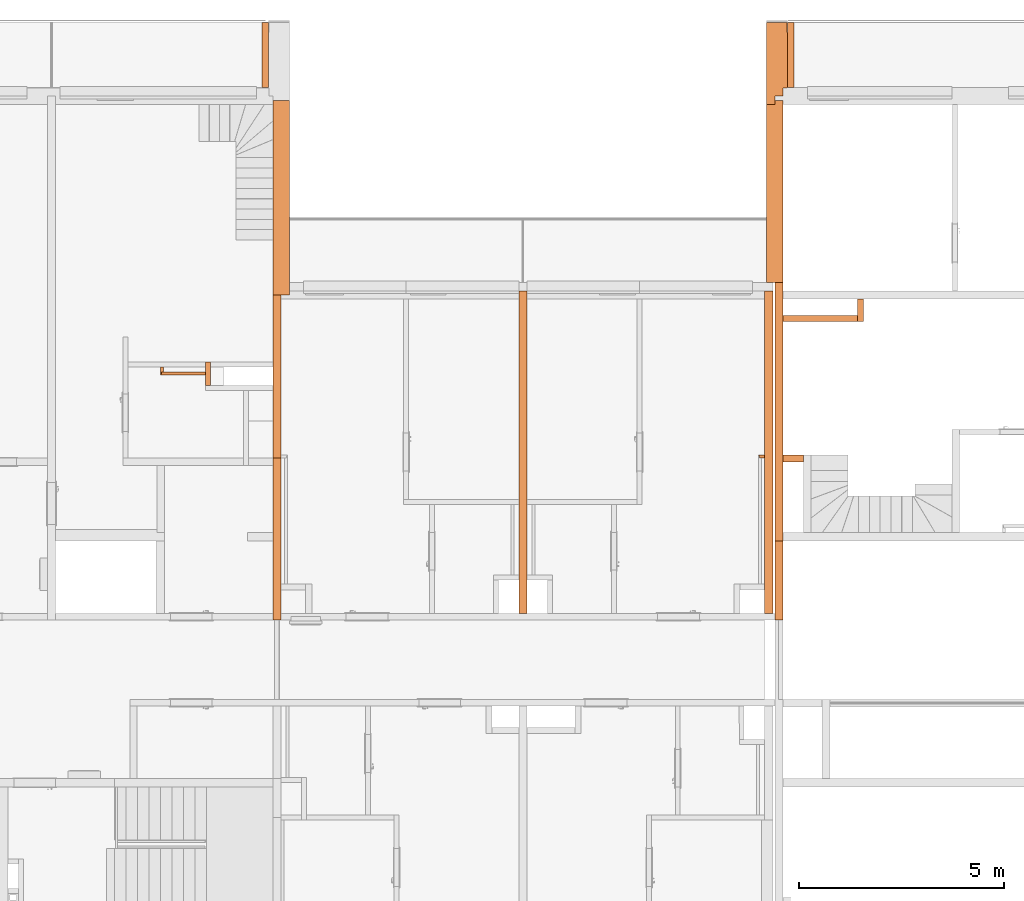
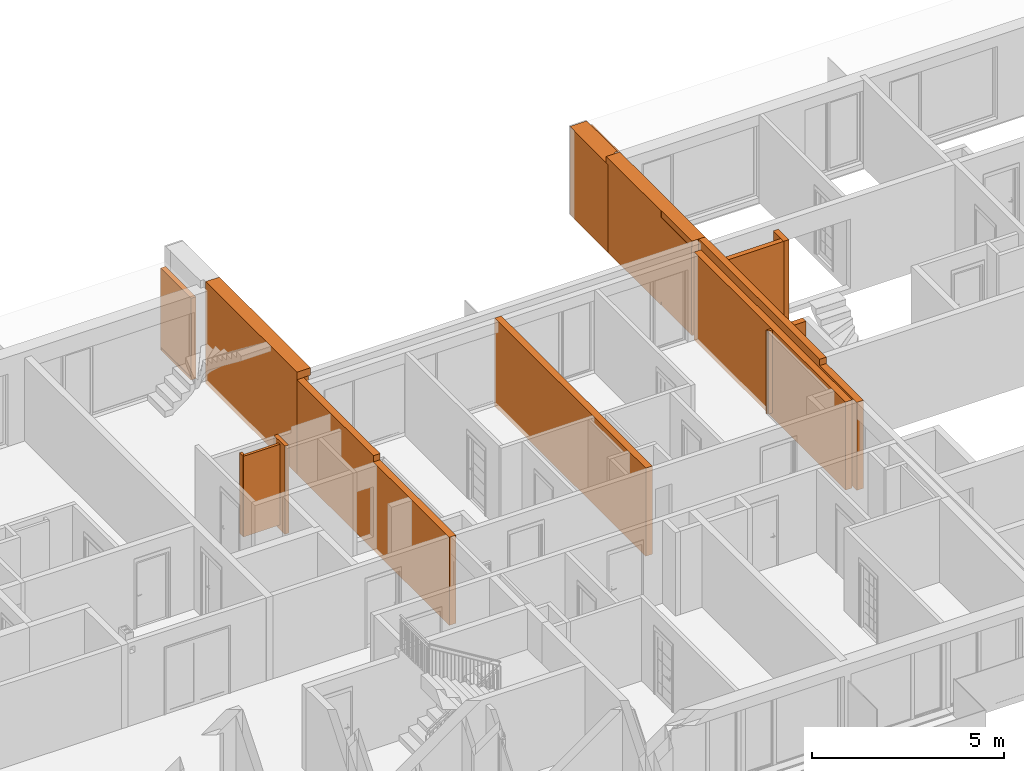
# One storey, part 57 of 61: 16 proxies, 1 opening.
"""IFC2X3 building model written with IfcOpenShell, lengths in millimetres."""

import ifcopenshell
import ifcopenshell.guid

model = None  # the IFC model being written
_history = None  # IfcOwnerHistory: only IFC2X3 demands one
_inside = {}  # id of a spatial element -> (the spatial element, [elements in it])
_under = {}  # id of a project, library or spatial element -> (it, [spatial elements below it])
_declared = {}  # id of a project -> (the project, [libraries it declares])
_typed = {}  # id of a type object -> (the type object, [elements of that type])
_made_of = {}  # id of a material, layer set ... -> (it, [elements and type objects made of it])


def new_model(schema):
    """Start an empty IFC model of exactly this schema.

    Asked for "IFC4X3", IfcOpenShell would pick the latest addendum, in which some entities
    have other attributes; the version numbers below select the first issue.
    IFC2X3 requires an IfcOwnerHistory on every rooted entity: one is made here for all.
    """
    global model, _history
    if schema == "IFC4X3":
        model = ifcopenshell.file(schema_version=(4, 3, 0, 0))
    else:
        model = ifcopenshell.file(schema=schema)
    _inside.clear()
    _under.clear()
    _declared.clear()
    _typed.clear()
    _made_of.clear()
    _history = None
    if model.schema == "IFC2X3":
        org = make("IfcOrganization", Name="unknown")
        user = make(
            "IfcPersonAndOrganization",
            ThePerson=make("IfcPerson", FamilyName="unknown"),
            TheOrganization=org,
        )
        app = make(
            "IfcApplication",
            ApplicationDeveloper=org,
            Version="unknown",
            ApplicationFullName="unknown",
            ApplicationIdentifier="unknown",
        )
        _history = make(
            "IfcOwnerHistory",
            OwningUser=user,
            OwningApplication=app,
            ChangeAction="ADDED",
            CreationDate=0,
        )
    return model


def make(cls, **values):
    """One entity of the class cls with the attributes given. An attribute that is None is left unset."""
    return model.create_entity(
        cls, **{name: value for name, value in values.items() if value is not None}
    )


def entity(cls, *values):
    """Any entity or typed value of the class cls, its attributes in the order of the schema. None: left unset."""
    e = model.create_entity(cls)
    for i, value in enumerate(values):
        if value is not None:
            e[i] = value
    return e


def rooted(cls, **values):
    """An entity with a GlobalId (a new one), such as an element, a storey or a relation."""
    return make(cls, GlobalId=ifcopenshell.guid.new(), OwnerHistory=_history, **values)


def si_unit(unit_type, name, prefix=None):
    """IfcSIUnit, for example si_unit("LENGTHUNIT", "METRE", prefix="MILLI")."""
    return make("IfcSIUnit", UnitType=unit_type, Prefix=prefix, Name=name)


def converted_unit(unit_type, name, factor, base, dimensions=None, offset=None):
    """IfcConversionBasedUnit, such as the inch: factor (a typed value) times the base unit."""
    return make(
        "IfcConversionBasedUnit"
        if offset is None
        else "IfcConversionBasedUnitWithOffset",
        ConversionOffset=offset,
        Dimensions=None
        if dimensions is None
        else entity("IfcDimensionalExponents", *dimensions),
        UnitType=unit_type,
        Name=name,
        ConversionFactor=make(
            "IfcMeasureWithUnit", ValueComponent=factor, UnitComponent=base
        ),
    )


def derived_unit(unit_type, elements):
    """IfcDerivedUnit: a product of units, each with its exponent."""
    return make(
        "IfcDerivedUnit",
        Elements=[
            make("IfcDerivedUnitElement", Unit=unit, Exponent=power)
            for unit, power in elements
        ],
        UnitType=unit_type,
    )


def money_unit(currency):
    """IfcMonetaryUnit."""
    return make("IfcMonetaryUnit", Currency=currency)


def assignment(units):
    """IfcUnitAssignment: the units of a project."""
    return None if units is None else make("IfcUnitAssignment", Units=units)


def point(xyz):
    """IfcCartesianPoint."""
    return None if xyz is None else make("IfcCartesianPoint", Coordinates=xyz)


def direction(xyz):
    """IfcDirection."""
    return None if xyz is None else make("IfcDirection", DirectionRatios=xyz)


def frame(location, z_axis=None, x_axis=None):
    """IfcAxis2Placement3D, a coordinate frame: its origin and axes. An axis left out is left unset."""
    return make(
        "IfcAxis2Placement3D",
        Location=point(location),
        Axis=direction(z_axis),
        RefDirection=direction(x_axis),
    )


def frame_2d(location, x_axis=None):
    """IfcAxis2Placement2D, a coordinate frame in the plane: its origin and x axis."""
    return make(
        "IfcAxis2Placement2D", Location=point(location), RefDirection=direction(x_axis)
    )


def origin_with_axes():
    """The frame at (0, 0, 0) with the z axis (0, 0, 1) and the x axis (1, 0, 0) written out."""
    return frame((0.0, 0.0, 0.0), z_axis=(0.0, 0.0, 1.0), x_axis=(1.0, 0.0, 0.0))


def origin_2d_with_axis():
    """The frame at (0, 0) in the plane with the x axis (1, 0) written out."""
    return frame_2d((0.0, 0.0), x_axis=(1.0, 0.0))


def place(relative_to, where):
    """IfcLocalPlacement: puts the frame where relative to a parent placement (None: the world)."""
    return make(
        "IfcLocalPlacement", PlacementRelTo=relative_to, RelativePlacement=where
    )


def context(
    kind, dimensions, precision=None, world=None, true_north=None, identifier=None
):
    """IfcGeometricRepresentationContext, for example the 3D "Model" context."""
    return make(
        "IfcGeometricRepresentationContext",
        ContextIdentifier=identifier,
        ContextType=kind,
        CoordinateSpaceDimension=dimensions,
        Precision=precision,
        WorldCoordinateSystem=world,
        TrueNorth=true_north,
    )


def subcontext(parent, identifier, kind, view, scale=None):
    """IfcGeometricRepresentationSubContext, for example "Body" below "Model"."""
    return make(
        "IfcGeometricRepresentationSubContext",
        ContextIdentifier=identifier,
        ContextType=kind,
        ParentContext=parent,
        TargetScale=scale,
        TargetView=view,
    )


def project(units=None, contexts=None):
    """IfcProject with its units and contexts."""
    return rooted(
        "IfcProject",
        Name="project",
        RepresentationContexts=contexts,
        UnitsInContext=assignment(units),
    )


def spatial(cls, under=None, at=None, **own):
    """A site, building, storey or space (cls), placed at a placement, below another one or the project."""
    s = rooted(cls, ObjectPlacement=at, **own)
    if under is not None:
        _under.setdefault(under.id(), (under, []))[1].append(s)
    return s


def profile(cls, at=None, kind="AREA", **sizes):
    """A parametric profile (cls). Its sizes go by their IFC names, for example OverallWidth=200.0."""
    return make(cls, ProfileType=kind, Position=at, **sizes)


def rectangle(**sizes):
    """IfcRectangleProfileDef."""
    return profile("IfcRectangleProfileDef", **sizes)


def extrude(swept, where, along, depth):
    """IfcExtrudedAreaSolid: the profile swept, set in the frame where, extruded along a direction by depth."""
    return make(
        "IfcExtrudedAreaSolid",
        SweptArea=swept,
        Position=where,
        ExtrudedDirection=direction(along),
        Depth=depth,
    )


def faces_of(points, faces, orient=None, outer=None):
    """IfcFace entities. A face is a list of loops; a loop is a list of indices into points, from 0.

    orient and outer hold one flag for each loop. By default every Orientation is true, the
    first loop of a face is its IfcFaceOuterBound and the others are IfcFaceBound.
    """
    made = []
    for i, loops in enumerate(faces):
        bounds = []
        for j, loop in enumerate(loops):
            is_outer = j == 0 if outer is None else outer[i][j]
            bounds.append(
                make(
                    "IfcFaceOuterBound" if is_outer else "IfcFaceBound",
                    Bound=make("IfcPolyLoop", Polygon=[points[k] for k in loop]),
                    Orientation=True if orient is None else orient[i][j],
                )
            )
        made.append(make("IfcFace", Bounds=bounds))
    return made


def faceted_brep(points, faces, orient=None, outer=None, voids=None):
    """IfcFacetedBrep: a solid bounded by flat faces; with voids (closed shells), ...WithVoids."""
    shared = [point(p) for p in points]
    hull = make("IfcClosedShell", CfsFaces=faces_of(shared, faces, orient, outer))
    if voids is None:
        return make("IfcFacetedBrep", Outer=hull)
    return make(
        "IfcFacetedBrepWithVoids",
        Outer=hull,
        Voids=[
            make(cls, CfsFaces=faces_of(shared, fs, o, b)) for cls, fs, o, b in voids
        ],
    )


def shape(context_of_items, identifier, shape_type, items):
    """IfcShapeRepresentation: the items that make up one representation, for example the "Body"."""
    return make(
        "IfcShapeRepresentation",
        ContextOfItems=context_of_items,
        RepresentationIdentifier=identifier,
        RepresentationType=shape_type,
        Items=items,
    )


def material(Name=None, Category=None):
    """IfcMaterial."""
    return make("IfcMaterial", Name=Name, Category=Category)


def material_list(materials):
    """IfcMaterialList."""
    return make("IfcMaterialList", Materials=materials)


def made_of(thing, what):
    """Note that an element or type object is made of a material, layer set ...; save() writes the relation."""
    if what is not None:
        _made_of.setdefault(what.id(), (what, []))[1].append(thing)
    return thing


def type_object(cls, material=None, **own):
    """A type object (cls), such as IfcWallType, which elements share."""
    return made_of(rooted(cls, **own), material)


def element(
    cls,
    number,
    at=None,
    inside=None,
    cuts=None,
    type_object=None,
    material=None,
    context=None,
    identifier="Body",
    shape_type=None,
    held_by="IfcProductDefinitionShape",
    body=None,
    shapes=None,
    **own,
):
    """One element of the class cls, such as IfcWall. Its Tag is "e" and its number.

    at: its placement. inside: the storey or other place that contains it. cuts: it is an
    opening in that element (IfcRelVoidsElement). A single representation is given by context,
    identifier, shape_type and body (its items); several are given by shapes. held_by: the class
    of the entity that holds the representations. save() writes the other relations.
    """
    e = rooted(cls, Tag="e%d" % number, ObjectPlacement=at, **own)
    if body is not None:
        shapes = [shape(context, identifier, shape_type, body)]
    if shapes is not None:
        e.Representation = make(held_by, Representations=shapes)
    if inside is not None:
        _inside.setdefault(inside.id(), (inside, []))[1].append(e)
    if cuts is not None:
        rooted(
            "IfcRelVoidsElement", RelatingBuildingElement=cuts, RelatedOpeningElement=e
        )
    if type_object is not None:
        _typed.setdefault(type_object.id(), (type_object, []))[1].append(e)
    return made_of(e, material)


def aggregate(whole, parts):
    """IfcRelAggregates: a whole, such as a stair, and the parts it consists of."""
    return rooted("IfcRelAggregates", RelatingObject=whole, RelatedObjects=parts)


def save(model, path):
    """Write the relations noted so far, then the file.

    IfcRelAggregates (storeys below a building ...), IfcRelContainedInSpatialStructure (elements
    in a storey), IfcRelDefinesByType, IfcRelAssociatesMaterial and IfcRelDeclares: one each for
    every whole, place, type object, material and project.
    """
    for whole, parts in _under.values():
        aggregate(whole, parts)
    for where, things in _inside.values():
        rooted(
            "IfcRelContainedInSpatialStructure",
            RelatedElements=things,
            RelatingStructure=where,
        )
    for kind, things in _typed.values():
        rooted("IfcRelDefinesByType", RelatedObjects=things, RelatingType=kind)
    for what, things in _made_of.values():
        rooted("IfcRelAssociatesMaterial", RelatedObjects=things, RelatingMaterial=what)
    for by, libraries in _declared.values():
        rooted("IfcRelDeclares", RelatingContext=by, RelatedDefinitions=libraries)
    model.write(path)


model = new_model("IFC2X3")

# Units and contexts
model_context = context("Model", 3, precision=0.01, world=origin_with_axes(), true_north=direction((0.34421633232, 0.938890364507)))
body_context = subcontext(model_context, "Body", "Model", "MODEL_VIEW")
ifc_project = project(units=[si_unit("LENGTHUNIT", "METRE", prefix="MILLI"), si_unit("AREAUNIT", "SQUARE_METRE"), si_unit("VOLUMEUNIT", "CUBIC_METRE"), converted_unit("PLANEANGLEUNIT", "DEGREE", entity("IfcPlaneAngleMeasure", 0.0174532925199), si_unit("PLANEANGLEUNIT", "RADIAN"), dimensions=[0, 0, 0, 0, 0, 0, 0]), si_unit("SOLIDANGLEUNIT", "STERADIAN"), money_unit("USD"), converted_unit("TIMEUNIT", "Year", entity("IfcTimeMeasure", 31556926.0), si_unit("TIMEUNIT", "SECOND"), dimensions=[0, 0, 1, 0, 0, 0, 0]), si_unit("MASSUNIT", "GRAM", prefix="KILO"), si_unit("THERMODYNAMICTEMPERATUREUNIT", "DEGREE_CELSIUS"), si_unit("LUMINOUSINTENSITYUNIT", "LUMEN"), si_unit("ENERGYUNIT", "JOULE", prefix="MEGA"), derived_unit("THERMALCONDUCTANCEUNIT", [(si_unit("POWERUNIT", "WATT"), 1), (si_unit("LENGTHUNIT", "METRE"), -1), (si_unit("THERMODYNAMICTEMPERATUREUNIT", "KELVIN"), -1)]), derived_unit("SPECIFICHEATCAPACITYUNIT", [(si_unit("ENERGYUNIT", "JOULE"), 1), (si_unit("MASSUNIT", "GRAM", prefix="KILO"), -1), (si_unit("THERMODYNAMICTEMPERATUREUNIT", "KELVIN"), -1)]), derived_unit("MASSDENSITYUNIT", [(si_unit("MASSUNIT", "GRAM", prefix="KILO"), 1), (si_unit("VOLUMEUNIT", "CUBIC_METRE"), -1)])], contexts=[model_context])

# Site, building, storey
site_placement = place(None, origin_with_axes())
site = spatial("IfcSite", under=ifc_project, at=site_placement, Name="USTRONIE MORSKIE", CompositionType="ELEMENT")
building_placement = place(site_placement, origin_with_axes())
building = spatial("IfcBuilding", under=site, at=building_placement, Name="Budynek", CompositionType="ELEMENT")
storey_placement = place(building_placement, frame((0.0, 0.0, 13000.0), z_axis=(0.0, 0.0, 1.0), x_axis=(1.0, 0.0, 0.0)))
storey = spatial("IfcBuildingStorey", under=building, at=storey_placement, Name="PIĘTRO 4", CompositionType="ELEMENT", Elevation=13000.0)

# Proxies
ifc_material_1 = material(Name="Bloczki silikatowe")
building_element_proxy_type_1 = type_object("IfcBuildingElementProxyType", Name="Bloczki silikatowe 120", PredefinedType="NOTDEFINED")
proxy_1_placement = place(storey_placement, frame((394637.920919, 743001.199021, -160.0), z_axis=(0.0, 0.0, 1.0), x_axis=(0.0, -1.0, 0.0)))
element("IfcBuildingElementProxy", 1, at=proxy_1_placement, inside=storey, type_object=building_element_proxy_type_1, material=ifc_material_1, Name="SW-04", context=body_context, shape_type="Brep", body=[
    faceted_brep([(509.999084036, -60.0, 2800.0), (509.999084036, 60.0, 2800.0), (-59.9999999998, 60.0, 2800.0), (-59.9999999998, -60.0, 2800.0), (509.999084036, -60.0, 0.0), (509.999084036, 60.0, 0.0), (-59.9999999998, 60.0, 0.0), (-59.9999999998, -60.0, 0.0)], [[[0, 1, 2, 3]], [[1, 0, 4, 5]], [[1, 5, 6, 2]], [[7, 3, 2, 6]], [[4, 0, 3, 7]], [[5, 4, 7, 6]]]),
])
ifc_material_2 = material(Name="Tynk zewnętrzny")
ifc_material_3 = material(Name="Wełna ELEW")
ifc_material_4 = material(Name="Beton konstrukcyjny B25")
ifc_material_list_1 = material_list([ifc_material_2, ifc_material_3, ifc_material_4])
building_element_proxy_type_2 = type_object("IfcBuildingElementProxyType", Name="20+20 410", PredefinedType="NOTDEFINED")
proxy_2_placement = place(storey_placement, frame((408567.920919, 745001.199036, -160.0), z_axis=(0.0, 0.0, 1.0), x_axis=(0.0, 1.0, 0.0)))
element("IfcBuildingElementProxy", 2, at=proxy_2_placement, inside=storey, type_object=building_element_proxy_type_2, material=ifc_material_list_1, Name="SZ-01", context=body_context, shape_type="Brep", body=[
    faceted_brep([(1599.99509907, 310.0, 2999.99999794), (1599.99509907, 299.999991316, 2999.99999794), (4450.0, 300.0, 2999.99999891), (4450.0, 310.0, 2999.99999891), (1599.99509907, 299.999991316, 2799.99999794), (1599.99509907, 310.0, 2799.99999794), (0.000287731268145, 299.999991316, 2799.99999794), (5.11515736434e-05, 300.0, 110.0), (1599.99509907, 300.0, 110.0), (1599.99509907, 300.0, 85.0), (1599.99509907, 300.0, 5.0), (1599.99509907, 300.0, 0.0), (4350.0002527, 300.0, 0.0), (4350.0002527, 300.0, 2799.99999891), (4450.0, 300.0, 2799.99999891), (4450.0, 310.0, 2799.99999891), (4350.00026112, 310.0, 2799.99999891), (4350.00026112, 310.0, 0.0), (1599.99509907, 310.0, 0.0), (1599.99509907, 310.0, 5.0), (1599.99509907, 310.0, 85.0), (1599.99509907, 310.0, 110.0), (6.25622078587e-05, 310.0, 110.0), (0.000287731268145, 310.0, 2799.99999794)], [[[0, 1, 2, 3]], [[4, 1, 0, 5]], [[4, 6, 7, 8, 9, 10, 11, 12, 13, 14, 2, 1]], [[2, 14, 15, 3]], [[5, 0, 3, 15, 16, 17, 18, 19, 20, 21, 22, 23]], [[6, 4, 5, 23]], [[6, 23, 22, 7]], [[8, 7, 22, 21]], [[9, 8, 21, 20]], [[9, 20, 19, 10]], [[10, 19, 18, 11]], [[11, 18, 17, 12]], [[16, 13, 12, 17]], [[16, 15, 14, 13]]]),
    faceted_brep([(0.0, 100.0, 0.0), (4350.00008423, 100.0, 0.0), (4350.00008423, 100.0, 2799.99999891), (4450.0, 100.0, 2799.99999891), (4450.0, 100.0, 2999.99999891), (0.0, 100.0, 2999.99999792), (0.0, 300.0, 0.0), (4350.0002527, 300.0, 0.0), (4350.0002527, 300.0, 2799.99999891), (4450.0, 300.0, 2799.99999891), (4450.0, 300.0, 2999.99999891), (0.0, 300.0, 2999.99999792)], [[[0, 1, 2, 3, 4, 5]], [[6, 7, 1, 0]], [[8, 2, 1, 7]], [[8, 9, 3, 2]], [[4, 3, 9, 10]], [[11, 5, 4, 10]], [[11, 6, 0, 5]], [[9, 8, 7, 6, 11, 10]]]),
    faceted_brep([(0.0, -100.0, 0.0), (4349.99991577, -100.0, -8.13678013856e-08), (4349.99991577, -100.0, 2799.99999994), (4450.0, -100.0, 2799.99999994), (4450.0, -100.0, 2999.99999891), (0.0, -100.0, 2999.99999792), (0.0, 100.0, 0.0), (4350.00008423, 100.0, -4.94591034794e-08), (4350.00008423, 100.0, 2799.99999996), (4450.0, 100.0, 2799.99999996), (4450.0, 100.0, 2999.99999891), (0.0, 100.0, 2999.99999792)], [[[0, 1, 2, 3, 4, 5]], [[6, 7, 1, 0]], [[8, 2, 1, 7]], [[8, 9, 3, 2]], [[4, 3, 9, 10]], [[11, 5, 4, 10]], [[11, 6, 0, 5]], [[9, 8, 7, 6, 11, 10]]]),
])
ifc_material_list_2 = material_list([ifc_material_4, ifc_material_3, ifc_material_2])
proxy_3_placement = place(storey_placement, frame((396317.920919, 744701.199036, -160.0), z_axis=(0.0, 0.0, 1.0), x_axis=(0.0, 1.0, 0.0)))
element("IfcBuildingElementProxy", 3, at=proxy_3_placement, inside=storey, type_object=building_element_proxy_type_2, material=ifc_material_list_2, Name="SZ-01", context=body_context, shape_type="Brep", body=[
    faceted_brep([(4750.0, -100.0, 0.0), (0.0, -100.0, 0.0), (0.0, 100.0, 0.0), (4750.0, 100.0, 0.0), (4750.0, -100.0, 3240.0), (0.0, -100.0, 3240.0), (0.0, 100.0, 3240.0), (4750.0, 100.0, 3240.0)], [[[0, 1, 2, 3]], [[4, 5, 1, 0]], [[1, 5, 6, 2]], [[3, 2, 6, 7]], [[7, 4, 0, 3]], [[7, 6, 5, 4]]]),
    faceted_brep([(100.000211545, -300.0, 3005.0), (100.000211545, -300.0, 3000.0), (100.000285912, -300.0, 0.0), (4750.0, -300.0, 0.0), (4750.0, -300.0, 3240.0), (0.0, -300.0, 3240.0), (0.0, -300.0, 3005.0), (100.000211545, -100.000000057, 3005.0), (100.000211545, -100.000000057, 3000.0), (100.000285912, -100.0, 0.0), (4750.0, -100.0, 0.0), (4750.0, -100.0, 3240.0), (0.0, -100.0, 3240.0), (1.13686837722e-10, -100.000000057, 3005.0)], [[[0, 1, 2, 3, 4, 5, 6]], [[1, 0, 7, 8, 9, 2]], [[3, 2, 9, 10]], [[11, 4, 3, 10]], [[11, 12, 5, 4]], [[13, 6, 5, 12]], [[0, 6, 13, 7]], [[7, 13, 12, 11, 10, 9, 8]]]),
    faceted_brep([(100.000211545, -310.0, 3005.0), (100.000211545, -310.0, 3000.0), (300.000285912, -310.0, 3000.0), (300.000285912, -310.0, 0.0), (300.01333312, -310.0, 0.0), (300.01333312, -310.0, 110.0), (1899.99509907, -310.0, 110.0), (1899.99509907, -310.0, 0.0), (4750.0, -310.0, 0.0), (4750.0, -310.0, 3240.0), (0.0, -310.0, 3240.0), (0.0, -310.0, 3005.0), (100.000211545, -300.0, 3005.0), (100.000211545, -300.0, 3000.0), (300.000285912, -300.0, 3000.0), (300.000285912, -300.0, 0.0), (300.01334453, -300.0, 0.0), (300.01334453, -300.0, 110.0), (1899.99509907, -300.0, 110.0), (1899.99509907, -300.0, 0.0), (4750.0, -300.0, 0.0), (4750.0, -300.0, 3240.0), (0.0, -300.0, 3240.0), (0.0, -300.0, 3005.0)], [[[0, 1, 2, 3, 4, 5, 6, 7, 8, 9, 10, 11]], [[1, 0, 12, 13]], [[1, 13, 14, 2]], [[15, 3, 2, 14]], [[16, 4, 3, 15]], [[17, 5, 4, 16]], [[6, 5, 17, 18]], [[6, 18, 19, 7]], [[7, 19, 20, 8]], [[21, 9, 8, 20]], [[21, 22, 10, 9]], [[23, 11, 10, 22]], [[0, 11, 23, 12]], [[12, 23, 22, 21, 20, 19, 18, 17, 16, 15, 14, 13]]]),
])
building_element_proxy_type_3 = type_object("IfcBuildingElementProxyType", Name="Bloczki silikatowe 180", PredefinedType="NOTDEFINED")
proxy_4_placement = place(storey_placement, frame((409257.920919, 740711.179476, -160.0), z_axis=(0.0, 0.0, 1.0), x_axis=(-1.0, 0.0, 0.0)))
element("IfcBuildingElementProxy", 4, at=proxy_4_placement, inside=storey, type_object=building_element_proxy_type_3, material=ifc_material_1, Name="SW-02", context=body_context, shape_type="Brep", body=[
    faceted_brep([(590.0, 90.0, 0.0), (590.0, -90.0, 0.0), (90.0, -90.0, 0.0), (90.0, 90.0, 0.0), (590.0, 90.0, 2800.0), (590.0, -90.0, 2800.0), (90.0, -90.0, 2800.0), (90.0, 90.0, 2800.0)], [[[0, 1, 2, 3]], [[1, 0, 4, 5]], [[1, 5, 6, 2]], [[7, 3, 2, 6]], [[4, 0, 3, 7]], [[5, 4, 7, 6]]]),
])
ifc_material_5 = material(Name="Płyta GK")
ifc_material_6 = material(Name="-Pustka powietrzna")
ifc_material_list_3 = material_list([ifc_material_5, ifc_material_5, ifc_material_6])
building_element_proxy_type_4 = type_object("IfcBuildingElementProxyType", Name="330-SD GK 2-warstwy 75", PredefinedType="NOTDEFINED")
proxy_5_placement = place(storey_placement, frame((393502.920919, 742771.199021, -160.0), z_axis=(0.0, 0.0, 1.0), x_axis=(0.0, 1.0, 0.0)))
element("IfcBuildingElementProxy", 5, at=proxy_5_placement, inside=storey, type_object=building_element_proxy_type_4, material=ifc_material_list_3, Name="Ściana-009", context=body_context, shape_type="Brep", body=[
    faceted_brep([(-12.5, 12.5, 145.0), (170.0, 12.5, 145.0), (170.0, 12.5, 2710.0), (-12.5, 12.5, 2710.0), (170.0, 25.0, 145.0), (-12.5, 25.0, 145.0), (170.0, 25.0, 2710.0), (-12.5, 25.0, 2710.0)], [[[0, 1, 2, 3]], [[4, 1, 0, 5]], [[1, 4, 6, 2]], [[2, 6, 7, 3]], [[5, 0, 3, 7]], [[4, 5, 7, 6]]]),
    faceted_brep([(0.0, 0.0, 145.0), (170.0, 0.0, 145.0), (170.0, 0.0, 2710.0), (0.0, 0.0, 2710.0), (170.0, 12.5, 145.0), (0.0, 12.5, 145.0), (170.0, 12.5, 2710.0), (0.0, 12.5, 2710.0)], [[[0, 1, 2, 3]], [[4, 1, 0, 5]], [[1, 4, 6, 2]], [[2, 6, 7, 3]], [[5, 0, 3, 7]], [[4, 5, 7, 6]]]),
    faceted_brep([(50.0, -50.0, 160.0), (170.0, -50.0, 160.0), (170.0, -50.0, 2710.0), (50.0, -50.0, 2710.0), (170.0, 0.0, 160.0), (50.0, 0.0, 160.0), (170.0, 0.0, 2710.0), (50.0, 0.0, 2710.0)], [[[0, 1, 2, 3]], [[4, 1, 0, 5]], [[1, 4, 6, 2]], [[2, 6, 7, 3]], [[5, 0, 3, 7]], [[4, 5, 7, 6]]]),
])
ifc_material_list_4 = material_list([ifc_material_6, ifc_material_5, ifc_material_5])
proxy_6_placement = place(storey_placement, frame((393502.920919, 742771.199021, -160.0), z_axis=(0.0, 0.0, 1.0), x_axis=(1.0, 0.0, 0.0)))
element("IfcBuildingElementProxy", 6, at=proxy_6_placement, inside=storey, type_object=building_element_proxy_type_4, material=ifc_material_list_4, Name="Ściana-009", context=body_context, shape_type="Brep", body=[
    faceted_brep([(1075.0, 0.0, 160.0), (1075.0, 50.0, 160.0), (1075.0, 50.0, 2710.0), (1075.0, 0.0, 2710.0), (0.0, 50.0, 160.0), (0.0, 0.0, 160.0), (0.0, 50.0, 2710.0), (0.0, 0.0, 2710.0)], [[[0, 1, 2, 3]], [[4, 1, 0, 5]], [[1, 4, 6, 2]], [[3, 2, 6, 7]], [[5, 0, 3, 7]], [[4, 5, 7, 6]]]),
    faceted_brep([(1075.0, -12.5, 145.0), (1075.0, 0.0, 145.0), (1075.0, 0.0, 2710.0), (1075.0, -12.5, 2710.0), (-12.5, 0.0, 145.0), (-12.5, -12.5, 145.0), (-12.5, 0.0, 2710.0), (-12.5, -12.5, 2710.0)], [[[0, 1, 2, 3]], [[4, 1, 0, 5]], [[1, 4, 6, 2]], [[3, 2, 6, 7]], [[5, 0, 3, 7]], [[4, 5, 7, 6]]]),
    faceted_brep([(1075.0, -25.0, 145.0), (1075.0, -12.5, 145.0), (1075.0, -12.5, 2710.0), (1075.0, -25.0, 2710.0), (-25.0, -12.5, 145.0), (-25.0, -25.0, 145.0), (-25.0, -12.5, 2710.0), (-25.0, -25.0, 2710.0)], [[[0, 1, 2, 3]], [[4, 1, 0, 5]], [[1, 4, 6, 2]], [[3, 2, 6, 7]], [[5, 0, 3, 7]], [[4, 5, 7, 6]]]),
])
proxy_7_placement = place(storey_placement, frame((408317.920919, 740771.202288, -180.0), z_axis=(0.0, 0.0, 1.0), x_axis=(-1.0, 0.0, 0.0)))
element("IfcBuildingElementProxy", 7, at=proxy_7_placement, inside=storey, type_object=building_element_proxy_type_4, material=ifc_material_list_4, Name="Ściana-009", context=body_context, shape_type="Brep", body=[
    faceted_brep([(100.0, 50.0, 180.0), (100.0, 0.0, 180.0), (100.0, 0.0, 2820.0), (100.0, 50.0, 2820.0), (229.977879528, 0.0, 180.0), (229.977879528, 50.0, 180.0), (229.977879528, 0.0, 2820.0), (229.977879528, 50.0, 2820.0)], [[[0, 1, 2, 3]], [[4, 1, 0, 5]], [[1, 4, 6, 2]], [[7, 3, 2, 6]], [[5, 0, 3, 7]], [[4, 5, 7, 6]]]),
    faceted_brep([(100.0, 0.0, 165.0), (100.0, -12.5, 165.0), (100.0, -12.5, 2820.0), (100.0, 0.0, 2820.0), (242.477879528, -12.5, 165.0), (242.477879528, 0.0, 165.0), (242.477879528, -12.5, 2820.0), (242.477879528, 0.0, 2820.0)], [[[0, 1, 2, 3]], [[4, 1, 0, 5]], [[1, 4, 6, 2]], [[7, 3, 2, 6]], [[5, 0, 3, 7]], [[4, 5, 7, 6]]]),
    faceted_brep([(100.0, -12.5, 165.0), (100.0, -25.0, 165.0), (100.0, -25.0, 2820.0), (100.0, -12.5, 2820.0), (254.977879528, -25.0, 165.0), (254.977879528, -12.5, 165.0), (254.977879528, -25.0, 2820.0), (254.977879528, -12.5, 2820.0)], [[[0, 1, 2, 3]], [[4, 1, 0, 5]], [[1, 4, 6, 2]], [[7, 3, 2, 6]], [[5, 0, 3, 7]], [[4, 5, 7, 6]]]),
])
building_element_proxy_type_5 = type_object("IfcBuildingElementProxyType", Name="Bloczki silikatowe 150", PredefinedType="NOTDEFINED")
proxy_8_placement = place(storey_placement, frame((410537.940089, 744701.199036, -160.0), z_axis=(0.0, 0.0, 1.0), x_axis=(0.0, -1.0, 0.0)))
element("IfcBuildingElementProxy", 8, at=proxy_8_placement, inside=storey, type_object=building_element_proxy_type_5, material=ifc_material_1, Name="SW-03", context=body_context, shape_type="Brep", body=[
    faceted_brep([(650.0, 90.0, 0.0), (650.0, -60.0, 0.0), (100.000000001, -60.0, 0.0), (100.000000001, 90.0, 0.0), (650.0, 90.0, 2800.0), (650.0, -60.0, 2800.0), (100.000000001, -60.0, 2800.0), (100.000000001, 90.0, 2800.0)], [[[0, 1, 2, 3]], [[1, 0, 4, 5]], [[1, 5, 6, 2]], [[7, 3, 2, 6]], [[4, 0, 3, 7]], [[5, 4, 7, 6]]]),
])
proxy_9_placement = place(storey_placement, frame((410537.940089, 744141.199036, -160.0), z_axis=(0.0, 0.0, 1.0), x_axis=(-1.0, 0.0, 0.0)))
element("IfcBuildingElementProxy", 9, at=proxy_9_placement, inside=storey, type_object=building_element_proxy_type_5, material=ifc_material_1, Name="SW-03", context=body_context, shape_type="Brep", body=[
    faceted_brep([(1870.01916964, 90.0, 0.0), (1870.01916964, -59.9999999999, 0.0), (60.0, -59.9999999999, 0.0), (60.0, 90.0, 0.0), (1870.01916964, 90.0, 2800.0), (1870.01916964, -59.9999999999, 2800.0), (60.0, -59.9999999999, 2800.0), (60.0, 90.0, 2800.0)], [[[0, 1, 2, 3]], [[1, 0, 4, 5]], [[1, 5, 6, 2]], [[7, 3, 2, 6]], [[4, 0, 3, 7]], [[5, 4, 7, 6]]]),
])
building_element_proxy_type_6 = type_object("IfcBuildingElementProxyType", Name="Beton konstrukcyjny B25 200", PredefinedType="NOTDEFINED")
proxy_10_placement = place(storey_placement, frame((408317.920919, 744701.199036, -160.0), z_axis=(0.0, 0.0, 1.0), x_axis=(0.0, -1.0, 0.0)))
element("IfcBuildingElementProxy", 10, at=proxy_10_placement, inside=storey, type_object=building_element_proxy_type_6, material=ifc_material_4, Name="SW-01", context=body_context, shape_type="Brep", body=[
    faceted_brep([(-100.00028353, -100.0, 0.0), (-100.000211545, -100.0, 2800.0), (-100.000211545, 100.0, 2800.0), (-100.000288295, 100.0, 0.0), (7770.0, -100.0, 2800.0), (7770.0, -100.0, 0.0), (7770.0, 100.0, 2800.0), (7770.0, 100.0, 0.0)], [[[0, 1, 2, 3]], [[4, 1, 0, 5]], [[6, 2, 1, 4]], [[3, 2, 6, 7]], [[3, 7, 5, 0]], [[7, 6, 4, 5]]]),
])
proxy_11_placement = place(storey_placement, frame((396317.911316, 736851.199036, -160.0), z_axis=(0.0, 0.0, 1.0), x_axis=(0.0, 1.0, 0.0)))
element("IfcBuildingElementProxy", 11, at=proxy_11_placement, inside=storey, type_object=building_element_proxy_type_6, material=ifc_material_4, Name="SW-01", context=body_context, shape_type="Brep", body=[
    faceted_brep([(7850.0, 100.0, 3000.0), (3870.00022318, 100.0, 3000.0), (3870.00022584, -100.009602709, 3000.0), (7850.0, -100.0, 3000.0), (-80.0, 100.0, 2800.0), (3870.00022318, 100.0, 2800.0), (7850.0, 100.0, 0.0), (-80.0, 100.0, 0.0), (3870.00022584, -100.009602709, 2800.0), (-80.0, -100.009602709, 2800.0), (-80.0, -100.0, 0.0), (7850.0, -100.0, 0.0)], [[[0, 1, 2, 3]], [[4, 5, 1, 0, 6, 7]], [[5, 8, 2, 1]], [[2, 8, 9, 10, 11, 3]], [[3, 11, 6, 0]], [[4, 9, 8, 5]], [[11, 10, 7, 6]], [[10, 9, 4, 7]]]),
])
proxy_12_placement = place(storey_placement, frame((402317.920919, 736851.199036, -160.0), z_axis=(0.0, 0.0, 1.0), x_axis=(0.0, 1.0, 0.0)))
element("IfcBuildingElementProxy", 12, at=proxy_12_placement, inside=storey, type_object=building_element_proxy_type_6, material=ifc_material_4, Name="SW-01", context=body_context, shape_type="Brep", body=[
    faceted_brep([(7950.00014057, 100.0, 0.0), (7950.00021154, 100.0, 2800.0), (7950.00021154, -100.0, 2800.0), (7950.00014534, -100.0, 0.0), (80.0, 100.0, 0.0), (80.0, 100.0, 2800.0), (80.0, -100.0, 2800.0), (80.0, -100.0, 0.0)], [[[0, 1, 2, 3]], [[4, 5, 1, 0]], [[5, 6, 2, 1]], [[3, 2, 6, 7]], [[7, 4, 0, 3]], [[7, 6, 5, 4]]]),
])
proxy_13_placement = place(storey_placement, frame((408567.920919, 745001.199036, -160.0), z_axis=(0.0, 0.0, 1.0), x_axis=(0.0, -1.0, 0.0)))
element("IfcBuildingElementProxy", 13, at=proxy_13_placement, inside=storey, type_object=building_element_proxy_type_6, material=ifc_material_4, Name="SW-01", context=body_context, shape_type="Brep", body=[
    faceted_brep([(0.0, -100.0, 3000.0), (6300.00001345, -99.9999284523, 3000.0), (6300.00001345, 100.0, 3000.0), (0.0, 100.0, 3000.0), (8230.0, -100.0, 2800.0), (6300.00001345, -99.9999284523, 2800.0), (0.0, -100.0, 0.0), (8230.0, -100.0, 0.0), (6300.00001345, 100.0, 2800.0), (8230.0, 100.0, 2800.0), (8230.0, 100.0, 0.0), (0.0, 100.0, 0.0)], [[[0, 1, 2, 3]], [[4, 5, 1, 0, 6, 7]], [[5, 8, 2, 1]], [[2, 8, 9, 10, 11, 3]], [[6, 0, 3, 11]], [[4, 9, 8, 5]], [[6, 11, 10, 7]], [[10, 9, 4, 7]]]),
])

# Proxy, opening
ifc_material_list_5 = material_list([ifc_material_2, ifc_material_3, ifc_material_4, ifc_material_3, ifc_material_2])
building_element_proxy_type_7 = type_object("IfcBuildingElementProxyType", Name="BALKON bok 01 520", PredefinedType="NOTDEFINED")
proxy_14_placement = place(storey_placement, frame((408567.920919, 749451.199036, -160.0), z_axis=(0.0, 0.0, 1.0), x_axis=(0.0, 1.0, 0.0)))
proxy_14 = element("IfcBuildingElementProxy", 14, at=proxy_14_placement, inside=storey, type_object=building_element_proxy_type_7, material=ifc_material_list_5, Name="Œciana-006", context=body_context, shape_type="Brep", body=[
    faceted_brep([(-99.9997473, 300.0, 2799.99999891), (1949.99981809, 300.0, 2799.99999891), (1949.99981809, 310.0, 2799.99999891), (-99.9997388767, 310.0, 2799.99999891), (-99.9997473, 300.0, 0.0), (1949.99981809, 300.0, 0.0), (1949.99981809, 310.0, 0.0), (-99.9997388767, 310.0, 0.0)], [[[0, 1, 2, 3]], [[4, 5, 1, 0]], [[2, 1, 5, 6]], [[3, 2, 6, 7]], [[4, 0, 3, 7]], [[7, 6, 5, 4]]]),
    faceted_brep([(-99.9999157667, 100.0, 2799.99999891), (1949.99981809, 100.0, 2799.99999891), (1949.99981809, 300.0, 2799.99999891), (-99.9997473, 300.0, 2799.99999891), (-99.9999157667, 100.0, 0.0), (1949.99981809, 100.0, 0.0), (1949.99981809, 300.0, 0.0), (-99.9997473, 300.0, 0.0)], [[[0, 1, 2, 3]], [[4, 5, 1, 0]], [[2, 1, 5, 6]], [[3, 2, 6, 7]], [[4, 0, 3, 7]], [[7, 6, 5, 4]]]),
    faceted_brep([(1949.99981809, -100.0, 2799.99999891), (1949.99981809, 100.0, 2799.99999891), (100.000084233, 100.0, 2799.99999891), (99.9999157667, -100.0, 2799.99999891), (1949.99981809, -100.0, 0.0), (1949.99981809, 100.0, 0.0), (100.000084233, 100.0, 0.0), (99.9999157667, -100.0, 0.0)], [[[0, 1, 2, 3]], [[0, 4, 5, 1]], [[1, 5, 6, 2]], [[3, 2, 6, 7]], [[4, 0, 3, 7]], [[5, 4, 7, 6]]]),
    faceted_brep([(1949.99981809, -200.0, 2799.99999891), (1949.99981809, -100.0, 2799.99999891), (299.999915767, -100.0, 2799.99999891), (299.999831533, -200.0, 2799.99999891), (1949.99981809, -200.0, 0.0), (1949.99981809, -100.0, 0.0), (299.999915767, -100.0, 0.0), (299.999831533, -200.0, 0.0)], [[[0, 1, 2, 3]], [[0, 4, 5, 1]], [[1, 5, 6, 2]], [[3, 2, 6, 7]], [[4, 0, 3, 7]], [[5, 4, 7, 6]]]),
    faceted_brep([(309.99982311, -210.0, 9.99999623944), (1909.87684909, -210.0, 10.0000009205), (1909.87684909, -210.0, 0.0), (1949.99981809, -210.0, 0.0), (1950.0, -210.0, 2789.99999792), (309.99982311, -210.0, 2789.99999792), (309.999823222, -209.867070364, 9.99999623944), (1909.87684774, -209.852438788, 10.0000009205), (1909.87684774, -209.852438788, 0.0), (1899.84616152, -209.852530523, 1.89398381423e-05), (309.999823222, -209.867070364, -4.89926144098e-06), (309.999831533, -200.0, 0.0), (1949.99981809, -200.0, 0.0), (1950.0, -200.0, 2789.99999792), (309.999831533, -200.0, 2789.99999792)], [[[0, 1, 2, 3, 4, 5]], [[1, 0, 6, 7]], [[2, 1, 7, 8]], [[9, 10, 11, 12, 3, 2, 8]], [[12, 13, 4, 3]], [[14, 5, 4, 13]], [[6, 0, 5, 14, 11, 10]], [[6, 10, 9, 8, 7]], [[11, 14, 13, 12]]]),
])
opening_placement = place(proxy_14_placement, frame((1949.99981809, 0.0, 0.0), z_axis=(0.0, 0.0, 1.0), x_axis=(1.0, 0.0, 0.0)))
element("IfcOpeningElement", 15, at=opening_placement, cuts=proxy_14, Name="ZS1", context=body_context, shape_type="SweptSolid", body=[
    extrude(rectangle(XDim=9.99999999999, YDim=50.0000000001, at=origin_2d_with_axis()), frame((-25.0000000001, 305.0, 0.0), z_axis=(0.0, 0.0, 1.0), x_axis=(0.0, -1.0, 0.0)), (0.0, 0.0, 1.0), 2799.99999891),
    extrude(rectangle(XDim=9.99999999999, YDim=250.0, at=origin_2d_with_axis()), frame((-175.0, 305.0, 0.0), z_axis=(0.0, 0.0, 1.0), x_axis=(0.0, -1.0, 0.0)), (0.0, 0.0, 1.0), 2799.99999891),
    extrude(rectangle(XDim=9.99999999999, YDim=50.0, at=origin_2d_with_axis()), frame((-25.0, -205.0, 0.0), z_axis=(0.0, 0.0, 1.0), x_axis=(0.0, -1.0, 0.0)), (0.0, 0.0, 1.0), 2799.99999891),
    extrude(rectangle(XDim=9.99999999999, YDim=250.0, at=origin_2d_with_axis()), frame((-175.0, -205.0, 0.0), z_axis=(0.0, 0.0, 1.0), x_axis=(0.0, -1.0, 0.0)), (0.0, 0.0, 1.0), 2799.99999891),
    extrude(rectangle(XDim=500.0, YDim=50.0000000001, at=origin_2d_with_axis()), frame((-25.0000000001, 50.0, 0.0), z_axis=(0.0, 0.0, 1.0), x_axis=(0.0, -1.0, 0.0)), (0.0, 0.0, 1.0), 2799.99999891),
])

# Proxies
ifc_material_7 = material(Name="Laminat")
building_element_proxy_type_8 = type_object("IfcBuildingElementProxyType", Name="Laminat 150", PredefinedType="NOTDEFINED")
proxy_15_placement = place(storey_placement, frame((408852.787991, 749761.04617, -160.0), z_axis=(0.0, 0.0, 1.0), x_axis=(-9.14543759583e-06, 0.999999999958, 0.0)))
element("IfcBuildingElementProxy", 16, at=proxy_15_placement, inside=storey, type_object=building_element_proxy_type_8, material=ifc_material_7, Name="SW-03", context=body_context, shape_type="Brep", body=[
    faceted_brep([(1589.994468, 75.0, 2639.99999792), (1589.99971409, 75.0, 9.99999623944), (0.0, 74.9999999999, 9.99999623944), (0.0, 75.0, 2639.99999792), (1547.49980813, 74.9999999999, 14.9999951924), (1572.49971536, 75.0, 14.9999951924), (1572.49971536, 75.0, 109.999995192), (4.99980812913, 74.9999999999, 109.999995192), (4.99980812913, 74.9999999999, 84.9999951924), (1547.49980813, 74.9999999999, 84.9999951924), (1589.994468, -75.0, 2639.99999792), (1589.99971409, -75.0, 9.99999623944), (0.0, -75.0, 9.99999623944), (0.0, -75.0, 2639.99999792), (1547.49980813, -75.0, 14.9999951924), (1572.49971536, -75.0, 14.9999951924), (1572.49971536, -75.0, 109.999995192), (4.99980812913, -75.0, 109.999995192), (4.99980812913, -75.0, 84.9999951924), (1547.49980813, -75.0, 84.9999951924)], [[[0, 1, 2, 3], [4, 5, 6, 7, 8, 9]], [[10, 11, 1, 0]], [[1, 11, 12, 2]], [[3, 2, 12, 13]], [[0, 3, 13, 10]], [[4, 14, 15, 5]], [[5, 15, 16, 6]], [[6, 16, 17, 7]], [[7, 17, 18, 8]], [[8, 18, 19, 9]], [[9, 19, 14, 4]], [[13, 12, 11, 10], [14, 19, 18, 17, 16, 15]]]),
])
proxy_16_placement = place(storey_placement, frame((396032.78799, 749761.196429, -160.0), z_axis=(0.0, 0.0, 1.0), x_axis=(-9.14543760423e-06, 0.999999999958, 0.0)))
element("IfcBuildingElementProxy", 17, at=proxy_16_placement, inside=storey, type_object=building_element_proxy_type_8, material=ifc_material_7, Name="SW-03", context=body_context, shape_type="Brep", body=[
    faceted_brep([(1589.99981809, 75.0, 2609.99999792), (1589.99971409, 75.0, 9.99999623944), (0.0, 75.0, 9.99999623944), (1.13686837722e-10, 75.0, 2609.99999792), (1547.49980813, 75.0, 14.9999951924), (1572.49971536, 75.0, 14.9999951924), (1572.49971536, 75.0, 109.999995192), (4.99980812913, 75.0, 109.999995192), (4.99980812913, 75.0, 84.9999951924), (1547.49980813, 75.0, 84.9999951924), (1589.99981809, -74.9999999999, 2609.99999792), (1589.99971409, -75.0, 9.99999623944), (0.0, -75.0, 9.99999623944), (1.13686837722e-10, -74.9999999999, 2609.99999792), (1547.49980813, -75.0, 14.9999951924), (1572.49971536, -75.0, 14.9999951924), (1572.49971536, -75.0, 109.999995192), (4.99980812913, -75.0, 109.999995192), (4.99980812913, -75.0, 84.9999951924), (1547.49980813, -75.0, 84.9999951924)], [[[0, 1, 2, 3], [4, 5, 6, 7, 8, 9]], [[10, 11, 1, 0]], [[1, 11, 12, 2]], [[3, 2, 12, 13]], [[10, 0, 3, 13]], [[4, 14, 15, 5]], [[5, 15, 16, 6]], [[6, 16, 17, 7]], [[7, 17, 18, 8]], [[8, 18, 19, 9]], [[9, 19, 14, 4]], [[13, 12, 11, 10], [14, 19, 18, 17, 16, 15]]]),
])

save(model, "model.ifc")
